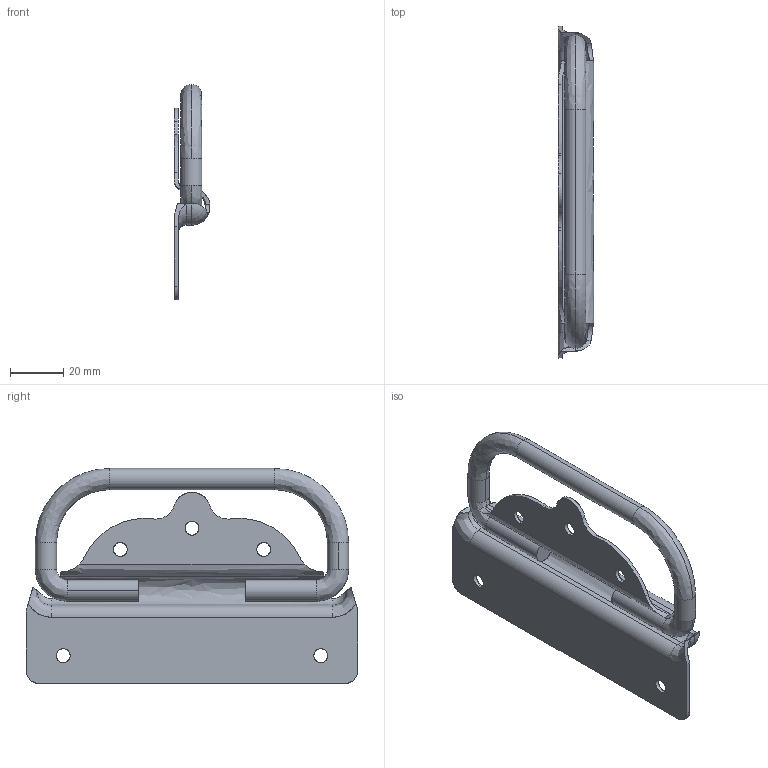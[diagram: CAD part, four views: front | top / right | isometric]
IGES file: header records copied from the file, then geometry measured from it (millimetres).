
Start section: SolidWorks IGES FILE using analytic representation for surfaces
Global section: file name: C:\Documents and Settings\lecoutey\Bureau\POF 306\POF 306.IGS; native system: SolidWorks 2004 by SolidWorks Corporation; preprocessor: Version 5.3; author: lecoutey; date: 050408.140344; units: millimetre
Bounding box: 13.5 x 125 x 81 mm (x, y, z)
Surface area: 23228 mm2 (no closed solid volume)
Topology: 0 solids, 0 shells, 85 faces, 1268 edges, 1268 vertices
Faces by surface type: revolution 48, bspline 37
